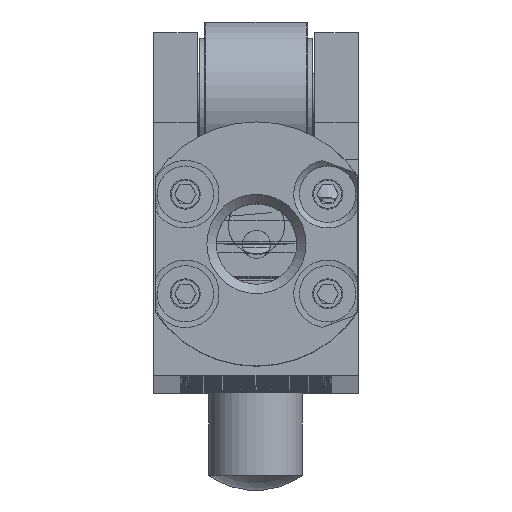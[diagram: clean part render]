
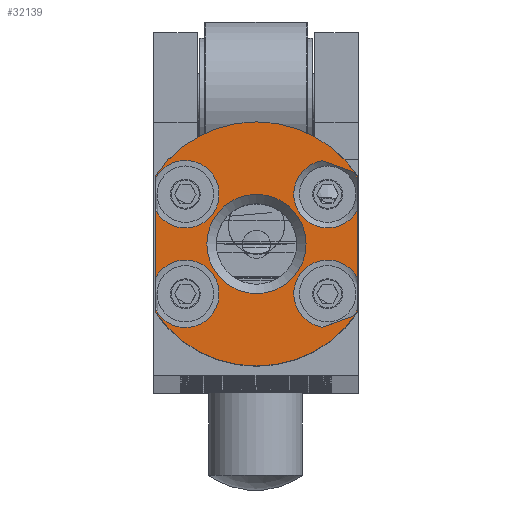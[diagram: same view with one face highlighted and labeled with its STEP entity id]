
A CAD part, top view. The second image highlights one B-rep face of the part: STEP entity #32139.
In plain terms, the highlighted planar face has unit normal (0, 0, 1).
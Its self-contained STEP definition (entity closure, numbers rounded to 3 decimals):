
#1249=FACE_BOUND('',#7925,.T.);
#2322=LINE('',#61193,#3444);
#2323=LINE('',#61195,#3445);
#2324=LINE('',#61200,#3446);
#2331=LINE('',#61249,#3453);
#2334=LINE('',#61270,#3456);
#2335=LINE('',#61271,#3457);
#2336=LINE('',#61272,#3458);
#2339=LINE('',#61286,#3461);
#3444=VECTOR('',#47333,10.);
#3445=VECTOR('',#47334,10.);
#3446=VECTOR('',#47335,10.);
#3453=VECTOR('',#47374,10.);
#3456=VECTOR('',#47391,10.);
#3457=VECTOR('',#47392,10.);
#3458=VECTOR('',#47393,10.);
#3461=VECTOR('',#47410,10.);
#5949=FACE_OUTER_BOUND('',#7924,.T.);
#7924=EDGE_LOOP('',(#28518,#28519,#28520,#28521,#28522,#28523,#28524,#28525,
#28526,#28527,#28528,#28529,#28530,#28531,#28532,#28533));
#7925=EDGE_LOOP('',(#28534));
#11029=CIRCLE('',#36846,13.);
#11034=CIRCLE('',#36855,13.);
#11040=CIRCLE('',#36866,5.283);
#11043=CIRCLE('',#36871,3.6);
#11046=CIRCLE('',#36877,3.6);
#11047=CIRCLE('',#36878,3.6);
#11050=CIRCLE('',#36884,3.6);
#11051=CIRCLE('',#36886,3.6);
#11052=CIRCLE('',#36887,3.6);
#14297=VERTEX_POINT('',#61165);
#14298=VERTEX_POINT('',#61167);
#14302=VERTEX_POINT('',#61182);
#14303=VERTEX_POINT('',#61184);
#14304=VERTEX_POINT('',#61188);
#14305=VERTEX_POINT('',#61189);
#14306=VERTEX_POINT('',#61194);
#14307=VERTEX_POINT('',#61196);
#14313=VERTEX_POINT('',#61218);
#14316=VERTEX_POINT('',#61228);
#14318=VERTEX_POINT('',#61233);
#14319=VERTEX_POINT('',#61240);
#14321=VERTEX_POINT('',#61245);
#14324=VERTEX_POINT('',#61261);
#14326=VERTEX_POINT('',#61266);
#14329=VERTEX_POINT('',#61283);
#14330=VERTEX_POINT('',#61285);
#19024=EDGE_CURVE('',#14298,#14297,#11029,.T.);
#19031=EDGE_CURVE('',#14302,#14303,#11034,.T.);
#19034=EDGE_CURVE('',#14298,#14305,#2322,.T.);
#19035=EDGE_CURVE('',#14306,#14303,#2323,.T.);
#19037=EDGE_CURVE('',#14304,#14307,#2324,.T.);
#19046=EDGE_CURVE('',#14313,#14313,#11040,.T.);
#19052=EDGE_CURVE('',#14318,#14316,#11043,.T.);
#19057=EDGE_CURVE('',#14319,#14321,#2331,.T.);
#19061=EDGE_CURVE('',#14321,#14306,#11046,.T.);
#19063=EDGE_CURVE('',#14307,#14319,#11047,.T.);
#19066=EDGE_CURVE('',#14316,#14326,#2334,.T.);
#19067=EDGE_CURVE('',#14302,#14318,#2335,.T.);
#19068=EDGE_CURVE('',#14324,#14297,#2336,.T.);
#19072=EDGE_CURVE('',#14326,#14324,#11050,.T.);
#19074=EDGE_CURVE('',#14305,#14329,#11051,.T.);
#19075=EDGE_CURVE('',#14329,#14330,#2339,.T.);
#19076=EDGE_CURVE('',#14330,#14304,#11052,.T.);
#28518=ORIENTED_EDGE('',*,*,#19074,.T.);
#28519=ORIENTED_EDGE('',*,*,#19075,.T.);
#28520=ORIENTED_EDGE('',*,*,#19076,.T.);
#28521=ORIENTED_EDGE('',*,*,#19037,.T.);
#28522=ORIENTED_EDGE('',*,*,#19063,.T.);
#28523=ORIENTED_EDGE('',*,*,#19057,.T.);
#28524=ORIENTED_EDGE('',*,*,#19061,.T.);
#28525=ORIENTED_EDGE('',*,*,#19035,.T.);
#28526=ORIENTED_EDGE('',*,*,#19031,.F.);
#28527=ORIENTED_EDGE('',*,*,#19067,.T.);
#28528=ORIENTED_EDGE('',*,*,#19052,.T.);
#28529=ORIENTED_EDGE('',*,*,#19066,.T.);
#28530=ORIENTED_EDGE('',*,*,#19072,.T.);
#28531=ORIENTED_EDGE('',*,*,#19068,.T.);
#28532=ORIENTED_EDGE('',*,*,#19024,.F.);
#28533=ORIENTED_EDGE('',*,*,#19034,.T.);
#28534=ORIENTED_EDGE('',*,*,#19046,.F.);
#29083=PLANE('',#36885);
#32139=ADVANCED_FACE('',(#5949,#1249),#29083,.T.);
#36846=AXIS2_PLACEMENT_3D('',#61169,#47308,#47309);
#36855=AXIS2_PLACEMENT_3D('',#61185,#47328,#47329);
#36866=AXIS2_PLACEMENT_3D('',#61219,#47357,#47358);
#36871=AXIS2_PLACEMENT_3D('',#61234,#47369,#47370);
#36877=AXIS2_PLACEMENT_3D('',#61257,#47384,#47385);
#36878=AXIS2_PLACEMENT_3D('',#61259,#47387,#47388);
#36884=AXIS2_PLACEMENT_3D('',#61280,#47403,#47404);
#36885=AXIS2_PLACEMENT_3D('',#61282,#47406,#47407);
#36886=AXIS2_PLACEMENT_3D('',#61284,#47408,#47409);
#36887=AXIS2_PLACEMENT_3D('',#61287,#47411,#47412);
#47308=DIRECTION('center_axis',(0.,0.,
-1.));
#47309=DIRECTION('ref_axis',(0.,1.,0.));
#47328=DIRECTION('center_axis',(0.,0.,
-1.));
#47329=DIRECTION('ref_axis',(0.,1.,0.));
#47333=DIRECTION('',(0.,1.,0.));
#47334=DIRECTION('',(0.,1.,0.));
#47335=DIRECTION('',(0.,1.,0.));
#47357=DIRECTION('center_axis',(0.,0.,
1.));
#47358=DIRECTION('ref_axis',(-1.,0.,0.));
#47369=DIRECTION('center_axis',(0.,0.,
-1.));
#47370=DIRECTION('ref_axis',(1.,0.,0.));
#47374=DIRECTION('',(0.94,-0.342,0.));
#47384=DIRECTION('center_axis',(0.,0.,
-1.));
#47385=DIRECTION('ref_axis',(-0.342,-0.94,0.));
#47387=DIRECTION('center_axis',(0.,0.,
-1.));
#47388=DIRECTION('ref_axis',(-0.342,-0.94,0.));
#47391=DIRECTION('',(0.,-1.,0.));
#47392=DIRECTION('',(0.,-1.,0.));
#47393=DIRECTION('',(0.,-1.,0.));
#47403=DIRECTION('center_axis',(0.,0.,
-1.));
#47404=DIRECTION('ref_axis',(1.,0.,0.));
#47406=DIRECTION('center_axis',(0.,0.,
1.));
#47407=DIRECTION('ref_axis',(1.,0.,0.));
#47408=DIRECTION('center_axis',(0.,0.,
-1.));
#47409=DIRECTION('ref_axis',(-0.342,0.94,0.));
#47410=DIRECTION('',(-0.94,-0.342,0.));
#47411=DIRECTION('center_axis',(0.,0.,
-1.));
#47412=DIRECTION('ref_axis',(-0.342,0.94,0.));
#61165=CARTESIAN_POINT('',(-10.7,-11.56,556.));
#61167=CARTESIAN_POINT('',(10.8,-11.56,556.));
#61169=CARTESIAN_POINT('Origin',(0.05,-4.25,556.));
#61182=CARTESIAN_POINT('',(-10.7,3.06,556.));
#61184=CARTESIAN_POINT('',(10.8,3.06,556.));
#61185=CARTESIAN_POINT('Origin',(0.05,-4.25,556.));
#61188=CARTESIAN_POINT('',(10.8,-7.855,556.));
#61189=CARTESIAN_POINT('',(10.8,-11.256,556.));
#61193=CARTESIAN_POINT('',(10.8,-4.655,556.));
#61194=CARTESIAN_POINT('',(10.8,2.756,556.));
#61195=CARTESIAN_POINT('',(10.8,-4.655,556.));
#61196=CARTESIAN_POINT('',(10.8,-0.645,556.));
#61200=CARTESIAN_POINT('',(10.8,-4.655,556.));
#61218=CARTESIAN_POINT('',(5.333,-4.25,556.));
#61219=CARTESIAN_POINT('Origin',(0.05,-4.25,556.));
#61228=CARTESIAN_POINT('',(-10.7,-0.645,556.));
#61233=CARTESIAN_POINT('',(-10.7,2.756,556.));
#61234=CARTESIAN_POINT('Origin',(-7.527,1.056,556.));
#61240=CARTESIAN_POINT('',(7.114,4.619,556.));
#61245=CARTESIAN_POINT('',(10.311,3.455,556.));
#61249=CARTESIAN_POINT('',(6.117,4.982,556.));
#61257=CARTESIAN_POINT('Origin',(7.627,1.056,556.));
#61259=CARTESIAN_POINT('Origin',(7.627,1.056,556.));
#61261=CARTESIAN_POINT('',(-10.7,-11.256,556.));
#61266=CARTESIAN_POINT('',(-10.7,-7.855,556.));
#61270=CARTESIAN_POINT('',(-10.7,2.655,556.));
#61271=CARTESIAN_POINT('',(-10.7,2.655,556.));
#61272=CARTESIAN_POINT('',(-10.7,2.655,556.));
#61280=CARTESIAN_POINT('Origin',(-7.527,-9.556,556.));
#61282=CARTESIAN_POINT('Origin',(0.05,2.25,556.));
#61283=CARTESIAN_POINT('',(10.311,-11.955,556.));
#61284=CARTESIAN_POINT('Origin',(7.627,-9.556,556.));
#61285=CARTESIAN_POINT('',(7.114,-13.119,556.));
#61286=CARTESIAN_POINT('',(8.206,-12.721,556.));
#61287=CARTESIAN_POINT('Origin',(7.627,-9.556,556.));
